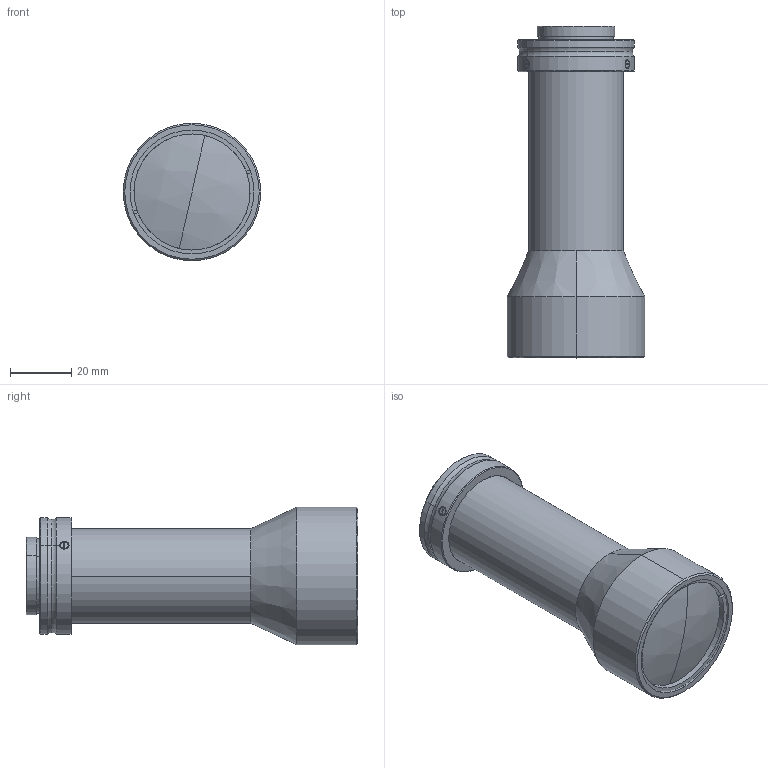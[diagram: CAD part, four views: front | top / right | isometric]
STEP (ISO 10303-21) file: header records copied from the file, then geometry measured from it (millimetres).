
FILE_DESCRIPTION (( 'STEP AP203' ), '1' );
FILE_NAME ('25-230 準肮粣蚾饜.STEP', '2020-04-14T10:52:09', ( 'xtzj' ), ( '' ), 'SwSTEP 2.0', 'SolidWorks 2019', '' );
FILE_SCHEMA (( 'CONFIG_CONTROL_DESIGN' ));
Length unit declared in the file: millimetre
Products named in the file (1): 25-230 準肮粣蚾饜
Bounding box: 45 x 108.56 x 45 mm (x, y, z)
Surface area: 18949.6 mm2 (no closed solid volume)
Topology: 0 solids, 11 shells, 81 faces, 214 edges, 139 vertices
Faces by surface type: cylinder 34, plane 27, cone 14, torus 4, sphere 2
Entity records: 2789 total; most frequent: CARTESIAN_POINT 663, DIRECTION 478, ORIENTED_EDGE 360, EDGE_CURVE 214, AXIS2_PLACEMENT_3D 194, VERTEX_POINT 139, CIRCLE 112, EDGE_LOOP 92
